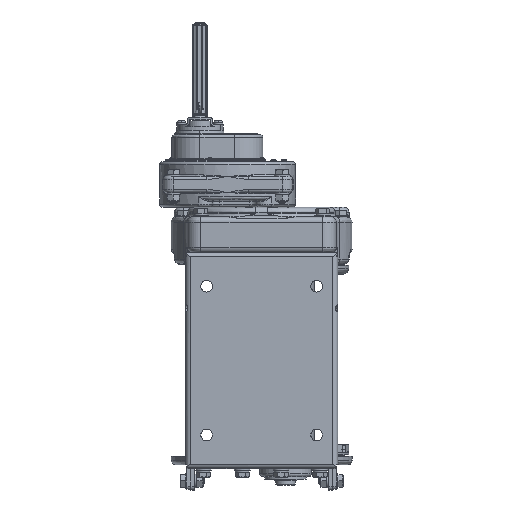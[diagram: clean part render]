
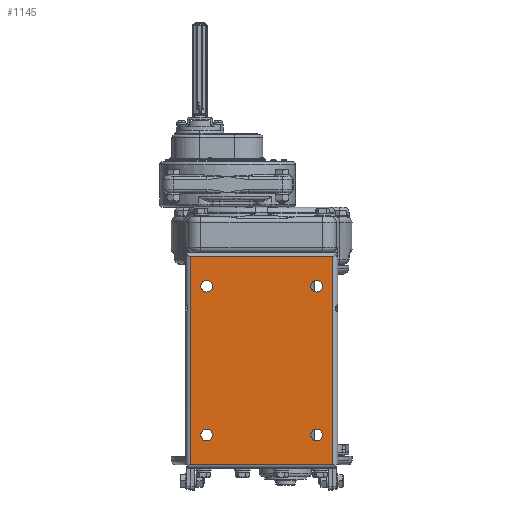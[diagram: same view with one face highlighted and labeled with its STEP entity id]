
A CAD part, front view. The second image highlights one B-rep face of the part: STEP entity #1145.
In plain terms, the highlighted planar face has unit normal (0, -1, 0).
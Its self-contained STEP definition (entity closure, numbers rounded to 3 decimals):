
#1145=ADVANCED_FACE('',(#13779,#13780,#13781,#13782,#13783),#13778,.F.);
#13778=PLANE('',#44293);
#13779=FACE_OUTER_BOUND('',#44294,.T.);
#13780=FACE_BOUND('',#44295,.T.);
#13781=FACE_BOUND('',#44296,.T.);
#13782=FACE_BOUND('',#44297,.T.);
#13783=FACE_BOUND('',#44298,.T.);
#44290=CARTESIAN_POINT('',(-171.432,-278.182,-566.035));
#44291=DIRECTION('',(0.,1.,0.));
#44292=DIRECTION('',(1.,0.,0.));
#44293=AXIS2_PLACEMENT_3D('',#44290,#44291,#44292);
#44294=EDGE_LOOP('',(#68694,#68695,#68696,#68697));
#44295=EDGE_LOOP('',(#68698,#68699,#68700));
#44296=EDGE_LOOP('',(#68701,#68702,#68703));
#44297=EDGE_LOOP('',(#68704,#68705,#68706));
#44298=EDGE_LOOP('',(#68707,#68708,#68709));
#68694=ORIENTED_EDGE('',*,*,#82964,.T.);
#68695=ORIENTED_EDGE('',*,*,#82965,.T.);
#68696=ORIENTED_EDGE('',*,*,#82966,.F.);
#68697=ORIENTED_EDGE('',*,*,#82967,.F.);
#68698=ORIENTED_EDGE('',*,*,#82968,.T.);
#68699=ORIENTED_EDGE('',*,*,#82969,.T.);
#68700=ORIENTED_EDGE('',*,*,#82970,.T.);
#68701=ORIENTED_EDGE('',*,*,#82971,.T.);
#68702=ORIENTED_EDGE('',*,*,#82972,.T.);
#68703=ORIENTED_EDGE('',*,*,#82973,.T.);
#68704=ORIENTED_EDGE('',*,*,#82974,.T.);
#68705=ORIENTED_EDGE('',*,*,#82975,.T.);
#68706=ORIENTED_EDGE('',*,*,#82976,.T.);
#68707=ORIENTED_EDGE('',*,*,#82977,.T.);
#68708=ORIENTED_EDGE('',*,*,#82978,.T.);
#68709=ORIENTED_EDGE('',*,*,#82979,.T.);
#82964=EDGE_CURVE('',#109137,#109138,#109139,.T.);
#82965=EDGE_CURVE('',#109138,#109145,#109146,.T.);
#82966=EDGE_CURVE('',#109152,#109145,#109153,.T.);
#82967=EDGE_CURVE('',#109137,#109152,#109159,.T.);
#82968=EDGE_CURVE('',#109165,#109166,#109167,.T.);
#82969=EDGE_CURVE('',#109166,#109173,#109174,.T.);
#82970=EDGE_CURVE('',#109173,#109165,#109180,.T.);
#82971=EDGE_CURVE('',#109186,#109187,#109188,.T.);
#82972=EDGE_CURVE('',#109187,#109194,#109195,.T.);
#82973=EDGE_CURVE('',#109194,#109186,#109201,.T.);
#82974=EDGE_CURVE('',#109207,#109208,#109209,.T.);
#82975=EDGE_CURVE('',#109208,#109215,#109216,.T.);
#82976=EDGE_CURVE('',#109215,#109207,#109222,.T.);
#82977=EDGE_CURVE('',#109228,#109229,#109230,.T.);
#82978=EDGE_CURVE('',#109229,#109236,#109237,.T.);
#82979=EDGE_CURVE('',#109236,#109228,#109243,.T.);
#109137=VERTEX_POINT('',#157544);
#109138=VERTEX_POINT('',#157545);
#109139=LINE('',#157546,#157547);
#109145=VERTEX_POINT('',#157549);
#109146=LINE('',#157550,#157551);
#109152=VERTEX_POINT('',#157553);
#109153=LINE('',#157554,#157555);
#109159=LINE('',#157557,#157558);
#109165=VERTEX_POINT('',#157560);
#109166=VERTEX_POINT('',#157561);
#109167=CIRCLE('',#157565,9.);
#109173=VERTEX_POINT('',#157566);
#109174=CIRCLE('',#157570,9.);
#109180=CIRCLE('',#157574,9.);
#109186=VERTEX_POINT('',#157575);
#109187=VERTEX_POINT('',#157576);
#109188=CIRCLE('',#157580,9.);
#109194=VERTEX_POINT('',#157581);
#109195=CIRCLE('',#157585,9.);
#109201=CIRCLE('',#157589,9.);
#109207=VERTEX_POINT('',#157590);
#109208=VERTEX_POINT('',#157591);
#109209=CIRCLE('',#157595,9.);
#109215=VERTEX_POINT('',#157596);
#109216=CIRCLE('',#157600,9.);
#109222=CIRCLE('',#157604,9.);
#109228=VERTEX_POINT('',#157605);
#109229=VERTEX_POINT('',#157606);
#109230=CIRCLE('',#157610,9.);
#109236=VERTEX_POINT('',#157611);
#109237=CIRCLE('',#157615,9.);
#109243=CIRCLE('',#157619,9.);
#157544=CARTESIAN_POINT('',(57.568,-278.182,-898.035));
#157545=CARTESIAN_POINT('',(57.568,-278.182,-576.035));
#157546=CARTESIAN_POINT('',(57.568,-278.182,-898.035));
#157547=VECTOR('',#157548,322.);
#157548=DIRECTION('',(0.,0.,1.));
#157549=CARTESIAN_POINT('',(-161.432,-278.182,-576.035));
#157550=CARTESIAN_POINT('',(57.568,-278.182,-576.035));
#157551=VECTOR('',#157552,219.);
#157552=DIRECTION('',(-1.,0.,0.));
#157553=CARTESIAN_POINT('',(-161.432,-278.182,-898.035));
#157554=CARTESIAN_POINT('',(-161.432,-278.182,-898.035));
#157555=VECTOR('',#157556,322.);
#157556=DIRECTION('',(0.,0.,1.));
#157557=CARTESIAN_POINT('',(57.568,-278.182,-898.035));
#157558=VECTOR('',#157559,219.);
#157559=DIRECTION('',(-1.,0.,0.));
#157560=CARTESIAN_POINT('',(42.068,-278.182,-852.035));
#157561=CARTESIAN_POINT('',(33.068,-278.182,-861.035));
#157562=CARTESIAN_POINT('',(33.068,-278.182,-852.035));
#157563=DIRECTION('',(0.,1.,0.));
#157564=DIRECTION('',(1.,0.,0.));
#157565=AXIS2_PLACEMENT_3D('',#157562,#157563,#157564);
#157566=CARTESIAN_POINT('',(33.067,-278.182,-843.035));
#157567=CARTESIAN_POINT('',(33.068,-278.182,-852.035));
#157568=DIRECTION('',(0.,1.,0.));
#157569=DIRECTION('',(1.,0.,0.));
#157570=AXIS2_PLACEMENT_3D('',#157567,#157568,#157569);
#157571=CARTESIAN_POINT('',(33.068,-278.182,-852.035));
#157572=DIRECTION('',(0.,1.,0.));
#157573=DIRECTION('',(1.,0.,0.));
#157574=AXIS2_PLACEMENT_3D('',#157571,#157572,#157573);
#157575=CARTESIAN_POINT('',(-127.932,-278.182,-852.035));
#157576=CARTESIAN_POINT('',(-136.932,-278.182,-861.035));
#157577=CARTESIAN_POINT('',(-136.932,-278.182,-852.035));
#157578=DIRECTION('',(0.,1.,0.));
#157579=DIRECTION('',(1.,0.,0.));
#157580=AXIS2_PLACEMENT_3D('',#157577,#157578,#157579);
#157581=CARTESIAN_POINT('',(-136.933,-278.182,-843.035));
#157582=CARTESIAN_POINT('',(-136.932,-278.182,-852.035));
#157583=DIRECTION('',(0.,1.,0.));
#157584=DIRECTION('',(1.,0.,0.));
#157585=AXIS2_PLACEMENT_3D('',#157582,#157583,#157584);
#157586=CARTESIAN_POINT('',(-136.932,-278.182,-852.035));
#157587=DIRECTION('',(0.,1.,0.));
#157588=DIRECTION('',(1.,0.,0.));
#157589=AXIS2_PLACEMENT_3D('',#157586,#157587,#157588);
#157590=CARTESIAN_POINT('',(-127.932,-278.182,-622.035));
#157591=CARTESIAN_POINT('',(-136.932,-278.182,-631.035));
#157592=CARTESIAN_POINT('',(-136.932,-278.182,-622.035));
#157593=DIRECTION('',(0.,1.,0.));
#157594=DIRECTION('',(1.,0.,0.));
#157595=AXIS2_PLACEMENT_3D('',#157592,#157593,#157594);
#157596=CARTESIAN_POINT('',(-136.933,-278.182,-613.035));
#157597=CARTESIAN_POINT('',(-136.932,-278.182,-622.035));
#157598=DIRECTION('',(0.,1.,0.));
#157599=DIRECTION('',(1.,0.,0.));
#157600=AXIS2_PLACEMENT_3D('',#157597,#157598,#157599);
#157601=CARTESIAN_POINT('',(-136.932,-278.182,-622.035));
#157602=DIRECTION('',(0.,1.,0.));
#157603=DIRECTION('',(1.,0.,0.));
#157604=AXIS2_PLACEMENT_3D('',#157601,#157602,#157603);
#157605=CARTESIAN_POINT('',(42.068,-278.182,-622.035));
#157606=CARTESIAN_POINT('',(33.068,-278.182,-631.035));
#157607=CARTESIAN_POINT('',(33.068,-278.182,-622.035));
#157608=DIRECTION('',(0.,1.,0.));
#157609=DIRECTION('',(1.,0.,0.));
#157610=AXIS2_PLACEMENT_3D('',#157607,#157608,#157609);
#157611=CARTESIAN_POINT('',(33.067,-278.182,-613.035));
#157612=CARTESIAN_POINT('',(33.068,-278.182,-622.035));
#157613=DIRECTION('',(0.,1.,0.));
#157614=DIRECTION('',(1.,0.,0.));
#157615=AXIS2_PLACEMENT_3D('',#157612,#157613,#157614);
#157616=CARTESIAN_POINT('',(33.068,-278.182,-622.035));
#157617=DIRECTION('',(0.,1.,0.));
#157618=DIRECTION('',(1.,0.,0.));
#157619=AXIS2_PLACEMENT_3D('',#157616,#157617,#157618);
